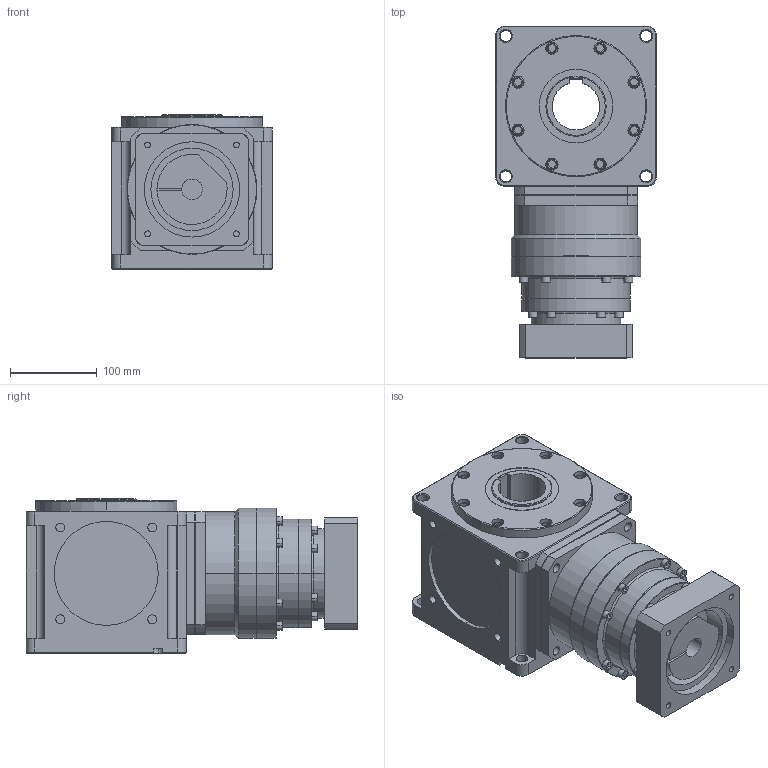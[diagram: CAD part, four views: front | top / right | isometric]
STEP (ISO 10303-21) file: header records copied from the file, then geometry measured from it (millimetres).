
FILE_DESCRIPTION (( 'STEP AP214' ), '1' );
FILE_NAME ('CCW185A-L2(24-200)-CR 24-110-145-M8.STEP', '2025-05-26T06:58:39', ( '微软用户' ), ( '微软中国' ), 'SwSTEP 2.0', 'SolidWorks 2024', '' );
FILE_SCHEMA (( 'AUTOMOTIVE_DESIGN' ));
Length unit declared in the file: millimetre
Products named in the file (3): VRB-142-L2-S2-P1 24-110-145-M8; CCW185A-002-CR箱体; CCW185A-L2(24-200)-CR 24-110-145-M8
Assembly tree (2 placements, depth 2):
  CCW185A-L2(24-200)-CR 24-110-145-M8
    VRB-142-L2-S2-P1 24-110-145-M8
    CCW185A-002-CR箱体
Bounding box: 185 x 383 x 178 mm (x, y, z)
Volume: 8010831.1 mm3; surface area: 444826.5 mm2
Topology: 2 solids, 2 shells, 625 faces, 1491 edges, 943 vertices
Faces by surface type: plane 335, cylinder 198, cone 62, torus 30
Entity records: 18382 total; most frequent: DIRECTION 3318, CARTESIAN_POINT 3293, ORIENTED_EDGE 2978, EDGE_CURVE 1489, AXIS2_PLACEMENT_3D 1228, VERTEX_POINT 943, LINE 862, VECTOR 862
